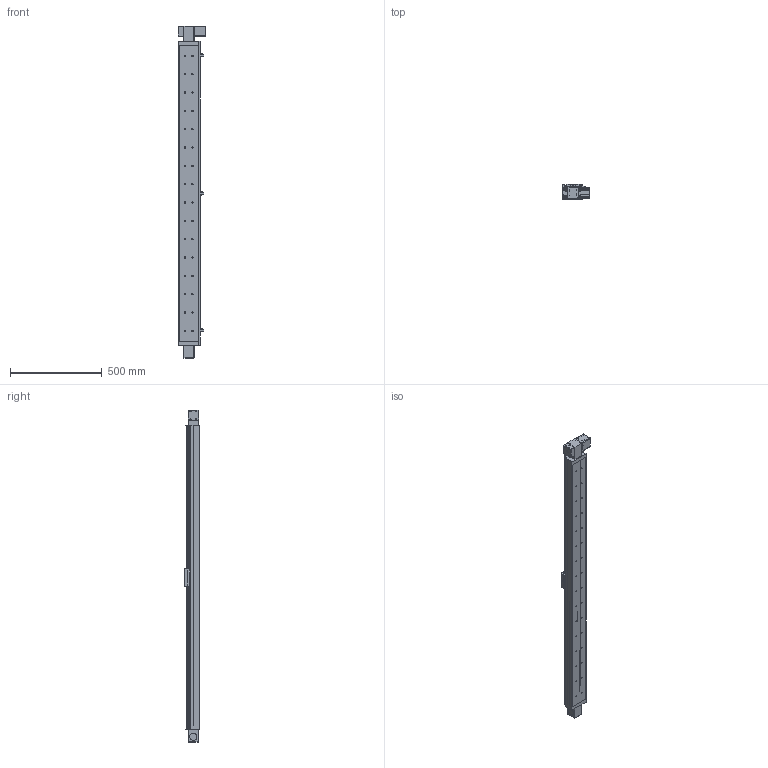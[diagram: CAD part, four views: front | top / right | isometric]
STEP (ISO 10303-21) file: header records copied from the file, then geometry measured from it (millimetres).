
FILE_DESCRIPTION((''),'2;1');
FILE_NAME('E:\uia actuator\UIA actuator 3d- 2015\Belt drive actuator\UIA110BR12(15)DC\UIA110BR12(15)DC-STEP FILE\UIA110BR12(15) stp file 13May16\UIA110BR12(15)DC-1500-M23-P13-C10-S.stp','2016-05-16T09:46:32',('h029'),(''),'Autodesk Inventor 11','Autodesk Inventor 11','');
FILE_SCHEMA(('AUTOMOTIVE_DESIGN { 1 0 10303 214 1 1 1 1 }'));
Length unit declared in the file: millimetre
Products named in the file (11): UIA110BR12(15)DC-1500; UIA110BR12(15)DC-1500-body; UIA110BR12(15)DC-1500-Sensor rail; UIA110B-Carriage; UIA110B- Sensor Flag; UIA110B-Cover; SOH-32C; SOH-32C-3; SOH-32C-1; SOH-32C-2; Motor mount
Assembly tree (10 placements, depth 3):
  UIA110BR12(15)DC-1500
    UIA110BR12(15)DC-1500-body
    UIA110BR12(15)DC-1500-Sensor rail
    UIA110B-Carriage
    UIA110B- Sensor Flag
    UIA110B-Cover
    SOH-32C
      SOH-32C-3
      SOH-32C-1
      SOH-32C-2
    Motor mount
Bounding box: 152 x 81 x 1811 mm (x, y, z)
Volume: 5190330.2 mm3; surface area: 1555496.6 mm2
Topology: 9 solids, 13 shells, 804 faces, 2266 edges, 1444 vertices
Faces by surface type: plane 495, cylinder 219, cone 42, bspline 40, sphere 8
Full cylindrical faces by diameter (mm): 2.459 x4, 3 x2, 3.242 x8, 3.5 x4, 4 x10, 4.5 x4, 4.917 x8, 5 x2, 6.35 x1, 6.5 x32, 7.5 x4, 10 x3, 11 x32, 12 x1, 20 x2, 32 x3, 37 x1, 38.1 x1, 39 x2, 43.5 x1, 46 x2
Entity records: 27418 total; most frequent: CARTESIAN_POINT 7345, DIRECTION 4107, ORIENTED_EDGE 3894, EDGE_CURVE 1947, AXIS2_PLACEMENT_3D 1432, VERTEX_POINT 1336, VECTOR 1243, LINE 1243
